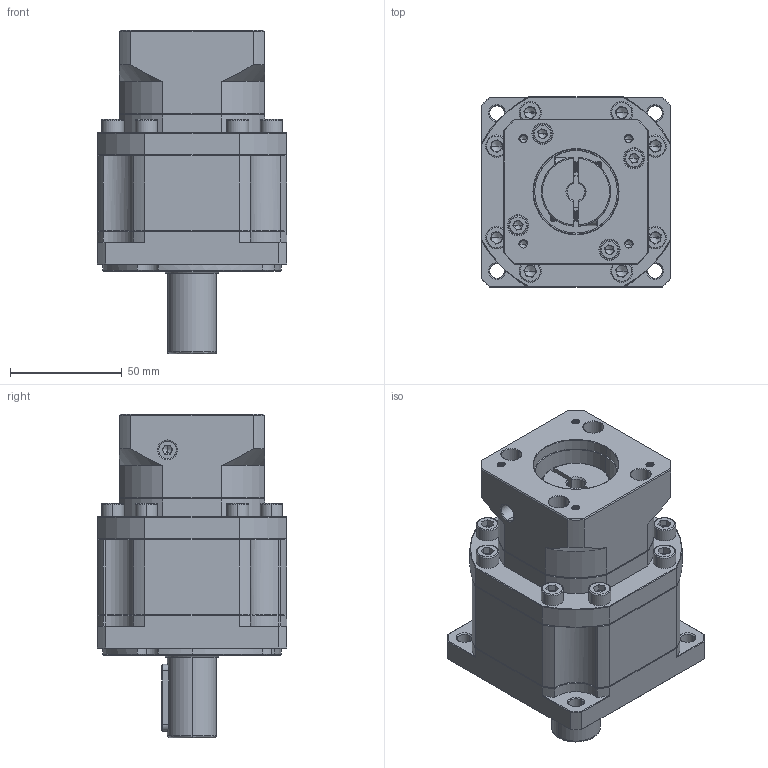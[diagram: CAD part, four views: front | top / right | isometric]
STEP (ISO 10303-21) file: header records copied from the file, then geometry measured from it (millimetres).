
FILE_DESCRIPTION (( 'STEP AP214' ), '1' );
FILE_NAME ('ZB90-D22-L2-8-38.1-47.14X47.14-M4.STEP', '2022-05-02T15:13:15', ( '' ), ( 'Microsoft' ), 'SwSTEP 2.0', 'SolidWorks 2016', '' );
FILE_SCHEMA (( 'AUTOMOTIVE_DESIGN' ));
Length unit declared in the file: millimetre
Products named in the file (1): ZB90-D22-L2-8-38.1-47.14X47.14-M4
Bounding box: 85 x 85 x 145 mm (x, y, z)
Volume: 550323.8 mm3; surface area: 76255.4 mm2
Topology: 6 solids, 6 shells, 2072 faces, 5430 edges, 3449 vertices
Faces by surface type: plane 1005, cylinder 394, bspline 328, cone 323, torus 22
Entity records: 107261 total; most frequent: CARTESIAN_POINT 36105, ORIENTED_EDGE 10768, DIRECTION 8911, EDGE_CURVE 5384, VERTEX_POINT 3449, VECTOR 3303, LINE 3303, AXIS2_PLACEMENT_3D 2804
